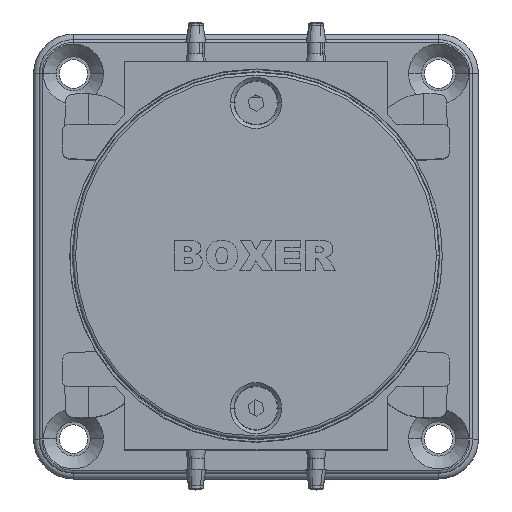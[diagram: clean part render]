
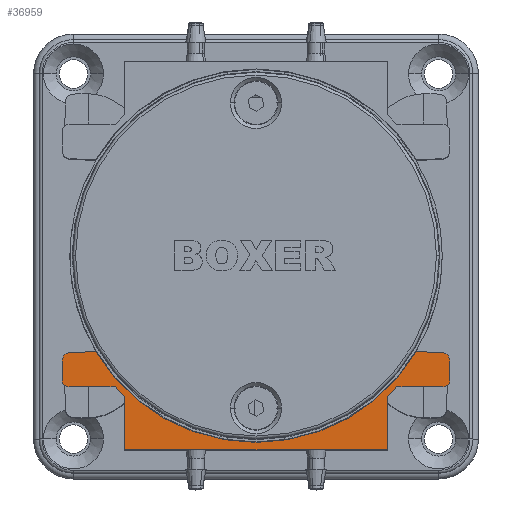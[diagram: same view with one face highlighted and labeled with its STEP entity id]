
A CAD part, top view. The second image highlights one B-rep face of the part: STEP entity #36959.
In plain terms, the highlighted planar face has unit normal (0, 0, 1).
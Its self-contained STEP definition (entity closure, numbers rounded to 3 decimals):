
#56 = LINE ( 'NONE', #43116, #59206 ) ;
#469 = CARTESIAN_POINT ( 'NONE',  ( 32.568, -17.002, 53.5 ) ) ;
#656 = CARTESIAN_POINT ( 'NONE',  ( -23., -24.699, 53.5 ) ) ;
#1141 = ORIENTED_EDGE ( 'NONE', *, *, #27016, .F. ) ;
#1278 = CARTESIAN_POINT ( 'NONE',  ( 23., -23.174, 53.5 ) ) ;
#1485 = CARTESIAN_POINT ( 'NONE',  ( -23., -23.174, 53.5 ) ) ;
#1547 = EDGE_CURVE ( 'NONE', #19677, #11944, #12901, .T. ) ;
#1900 = EDGE_CURVE ( 'NONE', #36709, #21087, #7095, .T. ) ;
#2246 = CARTESIAN_POINT ( 'NONE',  ( -34., -18.5, 53.5 ) ) ;
#2349 = DIRECTION ( 'NONE',  ( 0., 0., -1. ) ) ;
#3238 = ORIENTED_EDGE ( 'NONE', *, *, #39866, .F. ) ;
#4208 = CIRCLE ( 'NONE', #27646, 33.75 ) ;
#4266 = VECTOR ( 'NONE', #13735, 1000. ) ;
#5147 = VECTOR ( 'NONE', #48219, 1000. ) ;
#5764 = VERTEX_POINT ( 'NONE', #60493 ) ;
#6030 = VECTOR ( 'NONE', #11470, 1000. ) ;
#6055 = ORIENTED_EDGE ( 'NONE', *, *, #50943, .F. ) ;
#6092 = CIRCLE ( 'NONE', #12102, 33.75 ) ;
#6244 = VERTEX_POINT ( 'NONE', #55087 ) ;
#6608 = CIRCLE ( 'NONE', #23051, 1.25 ) ;
#6932 = EDGE_CURVE ( 'NONE', #49607, #5764, #6608, .T. ) ;
#7095 = CIRCLE ( 'NONE', #50880, 1.25 ) ;
#7123 = ORIENTED_EDGE ( 'NONE', *, *, #7697, .F. ) ;
#7216 = LINE ( 'NONE', #11874, #53928 ) ;
#7697 = EDGE_CURVE ( 'NONE', #55135, #57916, #41534, .T. ) ;
#8968 = DIRECTION ( 'NONE',  ( 0., 0., -1. ) ) ;
#9946 = DIRECTION ( 'NONE',  ( 0., 0., 1. ) ) ;
#10516 = DIRECTION ( 'NONE',  ( -1., 0., 0. ) ) ;
#11213 = FACE_OUTER_BOUND ( 'NONE', #21567, .T. ) ;
#11470 = DIRECTION ( 'NONE',  ( 0., 1., 0. ) ) ;
#11744 = CARTESIAN_POINT ( 'NONE',  ( 0., 0., 53.5 ) ) ;
#11862 = EDGE_CURVE ( 'NONE', #5764, #55027, #56, .T. ) ;
#11874 = CARTESIAN_POINT ( 'NONE',  ( 32.568, -17.002, 53.5 ) ) ;
#11905 = EDGE_CURVE ( 'NONE', #11944, #49607, #57708, .T. ) ;
#11944 = VERTEX_POINT ( 'NONE', #48427 ) ;
#12102 = AXIS2_PLACEMENT_3D ( 'NONE', #36896, #8968, #41562 ) ;
#12901 = CIRCLE ( 'NONE', #36402, 1.5 ) ;
#13466 = CIRCLE ( 'NONE', #39987, 1.5 ) ;
#13515 = PLANE ( 'NONE',  #54735 ) ;
#13735 = DIRECTION ( 'NONE',  ( -1., 0., 0. ) ) ;
#13911 = CARTESIAN_POINT ( 'NONE',  ( -32.75, -21.75, 53.5 ) ) ;
#14051 = VERTEX_POINT ( 'NONE', #15292 ) ;
#15292 = CARTESIAN_POINT ( 'NONE',  ( 23., -24.699, 53.5 ) ) ;
#15860 = VERTEX_POINT ( 'NONE', #57986 ) ;
#16132 = CARTESIAN_POINT ( 'NONE',  ( -34., -18.5, 53.5 ) ) ;
#16411 = DIRECTION ( 'NONE',  ( 1., 0., 0. ) ) ;
#16482 = ORIENTED_EDGE ( 'NONE', *, *, #11862, .F. ) ;
#16537 = EDGE_CURVE ( 'NONE', #17924, #55135, #34572, .T. ) ;
#17003 = CARTESIAN_POINT ( 'NONE',  ( -34., -21.75, 53.5 ) ) ;
#17105 = CARTESIAN_POINT ( 'NONE',  ( -32.568, -17.002, 53.5 ) ) ;
#17915 = ORIENTED_EDGE ( 'NONE', *, *, #55263, .F. ) ;
#17924 = VERTEX_POINT ( 'NONE', #41882 ) ;
#18618 = DIRECTION ( 'NONE',  ( 1., 0., 0. ) ) ;
#18668 = CARTESIAN_POINT ( 'NONE',  ( 32.5, -18.5, 53.5 ) ) ;
#19418 = ORIENTED_EDGE ( 'NONE', *, *, #1547, .F. ) ;
#19561 = AXIS2_PLACEMENT_3D ( 'NONE', #37884, #9946, #42552 ) ;
#19677 = VERTEX_POINT ( 'NONE', #469 ) ;
#20772 = ORIENTED_EDGE ( 'NONE', *, *, #26553, .F. ) ;
#21087 = VERTEX_POINT ( 'NONE', #17003 ) ;
#21567 = EDGE_LOOP ( 'NONE', ( #44191, #26020, #1141, #47967, #17915, #16482, #48593, #45859, #19418, #6055, #7123, #22968, #3238, #20772, #55184, #41251 ) ) ;
#22115 = VECTOR ( 'NONE', #26484, 1000. ) ;
#22885 = DIRECTION ( 'NONE',  ( 0., 0., -1. ) ) ;
#22907 = CARTESIAN_POINT ( 'NONE',  ( -32.75, -23., 53.5 ) ) ;
#22968 = ORIENTED_EDGE ( 'NONE', *, *, #16537, .F. ) ;
#23051 = AXIS2_PLACEMENT_3D ( 'NONE', #54904, #26949, #59632 ) ;
#23357 = DIRECTION ( 'NONE',  ( -1., 0., 0. ) ) ;
#24804 = VERTEX_POINT ( 'NONE', #656 ) ;
#25228 = CARTESIAN_POINT ( 'NONE',  ( -32.75, -23., 53.5 ) ) ;
#26020 = ORIENTED_EDGE ( 'NONE', *, *, #38369, .F. ) ;
#26484 = DIRECTION ( 'NONE',  ( 0.999, 0.045, 0. ) ) ;
#26553 = EDGE_CURVE ( 'NONE', #21087, #45349, #30844, .T. ) ;
#26949 = DIRECTION ( 'NONE',  ( 0., 0., -1. ) ) ;
#27016 = EDGE_CURVE ( 'NONE', #6244, #46089, #52034, .T. ) ;
#27231 = VECTOR ( 'NONE', #52562, 1000. ) ;
#27646 = AXIS2_PLACEMENT_3D ( 'NONE', #11744, #44367, #16411 ) ;
#28420 = VECTOR ( 'NONE', #38612, 1000. ) ;
#29243 = CARTESIAN_POINT ( 'NONE',  ( 34., -18.5, 53.5 ) ) ;
#30302 = CARTESIAN_POINT ( 'NONE',  ( -32.5, -18.5, 53.5 ) ) ;
#30844 = LINE ( 'NONE', #16132, #6030 ) ;
#32897 = VECTOR ( 'NONE', #38441, 1000. ) ;
#34572 = LINE ( 'NONE', #17105, #22115 ) ;
#35010 = DIRECTION ( 'NONE',  ( 1., 0., 0. ) ) ;
#36402 = AXIS2_PLACEMENT_3D ( 'NONE', #18668, #51292, #23357 ) ;
#36709 = VERTEX_POINT ( 'NONE', #25228 ) ;
#36896 = CARTESIAN_POINT ( 'NONE',  ( 0., 0., 53.5 ) ) ;
#36959 = ADVANCED_FACE ( 'NONE', ( #11213 ), #13515, .F. ) ;
#37884 = CARTESIAN_POINT ( 'NONE',  ( 0., 0., 53.5 ) ) ;
#38369 = EDGE_CURVE ( 'NONE', #46089, #24804, #56291, .T. ) ;
#38441 = DIRECTION ( 'NONE',  ( 0., -1., 0. ) ) ;
#38612 = DIRECTION ( 'NONE',  ( 0., -1., 0. ) ) ;
#39866 = EDGE_CURVE ( 'NONE', #45349, #17924, #13466, .T. ) ;
#39987 = AXIS2_PLACEMENT_3D ( 'NONE', #30302, #2349, #35010 ) ;
#41251 = ORIENTED_EDGE ( 'NONE', *, *, #52366, .F. ) ;
#41492 = LINE ( 'NONE', #22907, #4266 ) ;
#41534 = CIRCLE ( 'NONE', #19561, 32.737 ) ;
#41562 = DIRECTION ( 'NONE',  ( 1., 0., 0. ) ) ;
#41882 = CARTESIAN_POINT ( 'NONE',  ( -32.568, -17.002, 53.5 ) ) ;
#42552 = DIRECTION ( 'NONE',  ( -1., 0., 0. ) ) ;
#43000 = CARTESIAN_POINT ( 'NONE',  ( 23., -34., 53.5 ) ) ;
#43116 = CARTESIAN_POINT ( 'NONE',  ( 32.75, -23., 53.5 ) ) ;
#44052 = CARTESIAN_POINT ( 'NONE',  ( 24.699, -23., 53.5 ) ) ;
#44160 = EDGE_CURVE ( 'NONE', #24804, #15860, #4208, .T. ) ;
#44191 = ORIENTED_EDGE ( 'NONE', *, *, #44160, .F. ) ;
#44367 = DIRECTION ( 'NONE',  ( 0., 0., -1. ) ) ;
#45349 = VERTEX_POINT ( 'NONE', #2246 ) ;
#45859 = ORIENTED_EDGE ( 'NONE', *, *, #11905, .F. ) ;
#46089 = VERTEX_POINT ( 'NONE', #59925 ) ;
#46558 = DIRECTION ( 'NONE',  ( 0., 0., -1. ) ) ;
#46930 = CARTESIAN_POINT ( 'NONE',  ( 34., -21.75, 53.5 ) ) ;
#47967 = ORIENTED_EDGE ( 'NONE', *, *, #50787, .F. ) ;
#48219 = DIRECTION ( 'NONE',  ( 0., 1., 0. ) ) ;
#48427 = CARTESIAN_POINT ( 'NONE',  ( 34., -18.5, 53.5 ) ) ;
#48593 = ORIENTED_EDGE ( 'NONE', *, *, #6932, .F. ) ;
#49607 = VERTEX_POINT ( 'NONE', #46930 ) ;
#50787 = EDGE_CURVE ( 'NONE', #14051, #6244, #53208, .T. ) ;
#50821 = CARTESIAN_POINT ( 'NONE',  ( 32.5, -18.5, 53.5 ) ) ;
#50880 = AXIS2_PLACEMENT_3D ( 'NONE', #13911, #46558, #18618 ) ;
#50943 = EDGE_CURVE ( 'NONE', #57916, #19677, #7216, .T. ) ;
#51292 = DIRECTION ( 'NONE',  ( 0., 0., -1. ) ) ;
#52034 = LINE ( 'NONE', #43000, #27231 ) ;
#52366 = EDGE_CURVE ( 'NONE', #15860, #36709, #41492, .T. ) ;
#52562 = DIRECTION ( 'NONE',  ( -1., 0., 0. ) ) ;
#53208 = LINE ( 'NONE', #1278, #28420 ) ;
#53928 = VECTOR ( 'NONE', #58386, 1000. ) ;
#54027 = CARTESIAN_POINT ( 'NONE',  ( -28.099, -16.798, 53.5 ) ) ;
#54735 = AXIS2_PLACEMENT_3D ( 'NONE', #50821, #22885, #55523 ) ;
#54904 = CARTESIAN_POINT ( 'NONE',  ( 32.75, -21.75, 53.5 ) ) ;
#55027 = VERTEX_POINT ( 'NONE', #44052 ) ;
#55087 = CARTESIAN_POINT ( 'NONE',  ( 23., -34., 53.5 ) ) ;
#55135 = VERTEX_POINT ( 'NONE', #54027 ) ;
#55184 = ORIENTED_EDGE ( 'NONE', *, *, #1900, .F. ) ;
#55263 = EDGE_CURVE ( 'NONE', #55027, #14051, #6092, .T. ) ;
#55523 = DIRECTION ( 'NONE',  ( -1., 0., 0. ) ) ;
#56291 = LINE ( 'NONE', #1485, #5147 ) ;
#57708 = LINE ( 'NONE', #29243, #32897 ) ;
#57916 = VERTEX_POINT ( 'NONE', #60421 ) ;
#57986 = CARTESIAN_POINT ( 'NONE',  ( -24.699, -23., 53.5 ) ) ;
#58386 = DIRECTION ( 'NONE',  ( 0.999, -0.045, 0. ) ) ;
#59206 = VECTOR ( 'NONE', #10516, 1000. ) ;
#59632 = DIRECTION ( 'NONE',  ( -1., 0., 0. ) ) ;
#59925 = CARTESIAN_POINT ( 'NONE',  ( -23., -34., 53.5 ) ) ;
#60421 = CARTESIAN_POINT ( 'NONE',  ( 28.099, -16.798, 53.5 ) ) ;
#60493 = CARTESIAN_POINT ( 'NONE',  ( 32.75, -23., 53.5 ) ) ;
